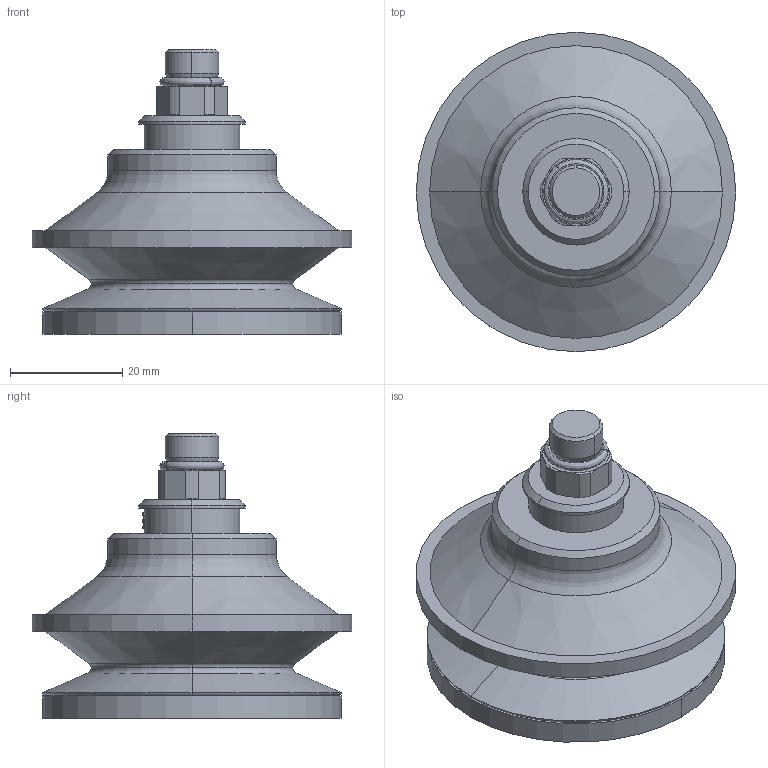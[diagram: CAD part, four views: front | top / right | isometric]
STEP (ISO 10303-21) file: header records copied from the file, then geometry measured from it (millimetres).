
FILE_DESCRIPTION (( 'STEP AP203' ), '1' );
FILE_NAME ('0321648.STEP', '2023-05-11T08:04:14', ( '' ), ( '' ), 'SwSTEP 2.0', 'SolidWorks 2022', '' );
FILE_SCHEMA (( 'CONFIG_CONTROL_DESIGN' ));
Length unit declared in the file: millimetre
Products named in the file (2): 0321648; Copy of 0321648-AS01^0321648
Assembly tree (1 placements, depth 2):
  0321648
    Copy of 0321648-AS01^0321648
Bounding box: 57 x 57 x 50.8 mm (x, y, z)
Volume: 52451.1 mm3; surface area: 11333.7 mm2
Topology: 2 solids, 2 shells, 113 faces, 234 edges, 142 vertices
Faces by surface type: cylinder 30, bspline 28, cone 28, plane 15, torus 12
Entity records: 4320 total; most frequent: CARTESIAN_POINT 1941, ORIENTED_EDGE 468, DIRECTION 406, EDGE_CURVE 234, AXIS2_PLACEMENT_3D 183, VERTEX_POINT 142, EDGE_LOOP 132, FACE_OUTER_BOUND 113
